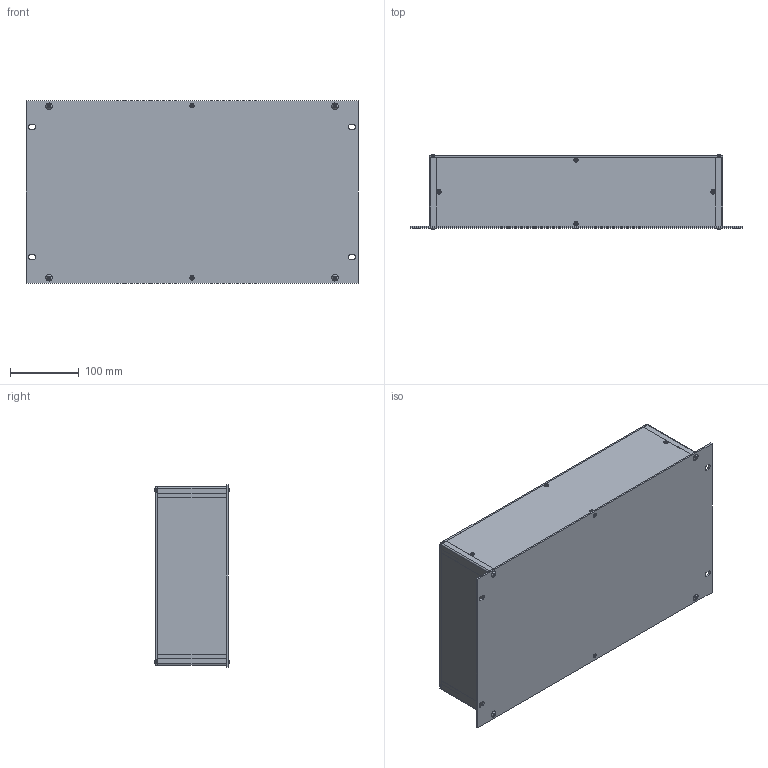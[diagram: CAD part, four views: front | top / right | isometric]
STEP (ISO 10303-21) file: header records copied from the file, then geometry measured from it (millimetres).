
FILE_DESCRIPTION(/* description */ (''),/* implementation_level */ '2;1');
FILE_NAME(/* name */ '//diskstation/Kunden/Gehäuse/Gehäuse/6HE/step/Zoll 6HE Rack Gehäuse Tiefe-100.step',/* time_stamp */ '2022-02-17T17:00:26+01:00',/* author */ (''),/* organization */ (''),/* preprocessor_version */ 'ST-DEVELOPER v18.1',/* originating_system */ 'Autodesk Translation Framework v10.10.0.1391',/* authorisation */ '');
FILE_SCHEMA (('AUTOMOTIVE_DESIGN { 1 0 10303 214 3 1 1 }'));
Length unit declared in the file: millimetre
Products named in the file (28): 6HE Gehäuse mit parametern; Gehäuse; Gehäuseprofil 1 unten links; Gehäuseprofil 2 oben rechts; Gehäuseprofil 1 unten rechts; Gehäuseprofil 2 oben links; Rückplatte; Deckel; Seitenteil links; Seitenteil rechts; Bodenplatte; Montageklotz Front/Deckel; Montageklotz Front/Boden; Montageklotz Rück/Deckel; Montageklotz Rück/Boden; Gewindestreifen; Frontplatte; Schrauben M5; Schraube Front; Schraube Front (1); Schraube Front (2); Schraube Front (3); Schraube Rück (1); Schraube Rück; Schraube Rück (2); Schraube Rück (3); Schrauben M3; HI_Senkschraube DIN 965 A v2 M3x5 24677.030.005(High)
Assembly tree (37 placements, depth 3):
  6HE Gehäuse mit parametern
    Gehäuse
      Gehäuseprofil 1 unten links
      Gehäuseprofil 2 oben rechts
      Gehäuseprofil 1 unten rechts
      Gehäuseprofil 2 oben links
      Rückplatte
      Deckel
      Seitenteil links
      Seitenteil rechts
      Bodenplatte
      Montageklotz Front/Deckel
      Montageklotz Front/Boden
      Montageklotz Rück/Deckel
      Montageklotz Rück/Boden
      Gewindestreifen  x2
    Frontplatte
    Schrauben M5
      Schraube Front
      Schraube Front (1)
      Schraube Front (2)
      Schraube Front (3)
      Schraube Rück (1)
      Schraube Rück
      Schraube Rück (2)
      Schraube Rück (3)
    Schrauben M3
      HI_Senkschraube DIN 965 A v2 M3x5 24677.030.005(High)  x10
Bounding box: 483 x 108.2 x 265 mm (x, y, z)
Volume: 942185.4 mm3; surface area: 797564.9 mm2
Topology: 34 solids, 34 shells, 802 faces, 1920 edges, 1186 vertices
Faces by surface type: plane 346, cylinder 276, cone 164, torus 8, bspline 8
Full cylindrical faces by diameter (mm): 2.529 x30, 3 x10, 3.2 x10, 4.234 x40, 5 x8, 5.2 x4, 5.3 x8, 5.6 x10, 9.5 x8
Entity records: 15811 total; most frequent: CARTESIAN_POINT 2922, DIRECTION 2634, ORIENTED_EDGE 2334, EDGE_CURVE 1167, AXIS2_PLACEMENT_3D 978, VERTEX_POINT 726, LINE 678, VECTOR 678
